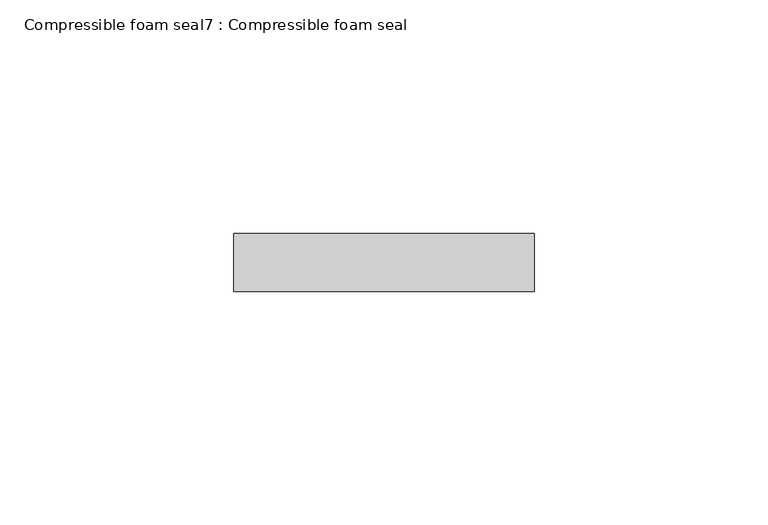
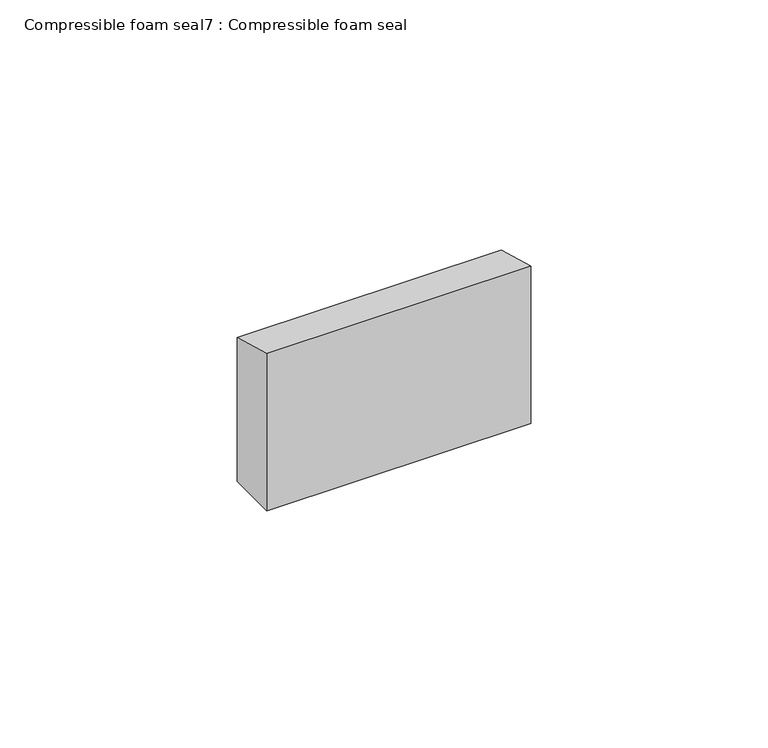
"""IFC4 building model written with IfcOpenShell, lengths in millimetres: proxy geometry, Compressible foam seal7 : Compressible foam seal."""

from ifc_helpers import new_model, si_unit, frame, origin, place, context, project, spatial, polyline, outline, extrude, source, transform, mapped, element, save


def compressible_foam_seal7_compressible_foam_seal_46f58d89(model_context):
    return source(origin(), model_context, "Body", "SweptSolid", [
        extrude(outline(polyline([(-20608.5148363, 306.4551735), (-20596.1136752, 303.1322924), (-20596.1136752, 265.9589997), (-20608.5148363, 265.9589997), (-20608.5148363, 306.4551735)])), frame((15940.0142034, 0.0, 0.0), z_axis=(1.0, 0.0, 0.0), x_axis=(0.0, 1.0, 0.0)), (0.0, 0.0, 1.0), 64.3831172),
    ])


if __name__ == "__main__":
    model = new_model("IFC4")
    model_context = context("Model", 3, world=origin())
    ifc_project = project(units=[si_unit("LENGTHUNIT", "METRE", prefix="MILLI")], contexts=[model_context])
    site = spatial("IfcSite", under=ifc_project)
    building = spatial("IfcBuilding", under=site)
    placement = place(None, origin())
    compressible_foam_seal7_compressible_foam_seal_shape = compressible_foam_seal7_compressible_foam_seal_46f58d89(model_context)
    element("IfcBuildingElementProxy", 1, Name="Compressible foam seal7 : Compressible foam seal", ObjectType="Compressible foam seal7 : Compressible foam seal", at=placement, inside=building, context=model_context, shape_type="MappedRepresentation", body=[
        mapped(compressible_foam_seal7_compressible_foam_seal_shape, transform((0.0, 0.0, 0.0), x_axis=(1.0, 0.0, 0.0), y_axis=(0.0, 1.0, 0.0), z_axis=(0.0, 0.0, 1.0))),
    ])
    save(model, "model.ifc")
